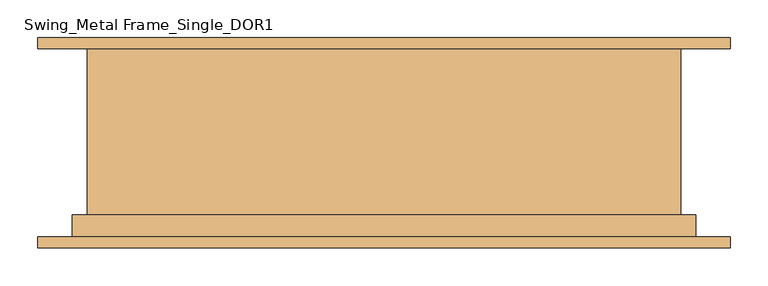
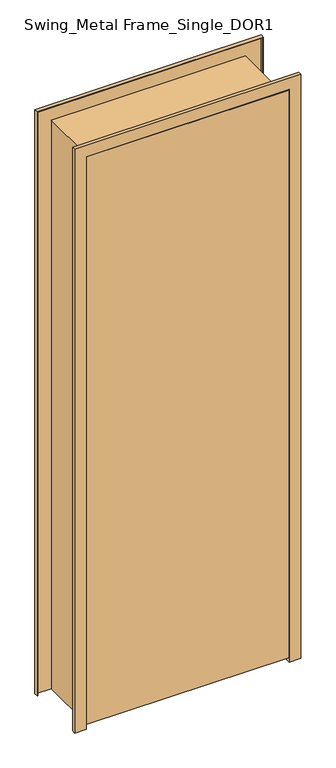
"""IFC4 building model written with IfcOpenShell, lengths in millimetres: door geometry, Swing_Metal Frame_Single_DOR1 : 2040h x 820 (2110x920 STUD)."""

from ifc_helpers import new_model, si_unit, frame, origin, place, context, project, spatial, polyline, outline, extrude, faceted_brep, source, transform, mapped, element, save


def swing_metal_frame_single_dor1_e173a355(model_context):
    return source(origin(), model_context, "Body", "SolidModel", [
        extrude(outline(polyline([(410.0, -140.0), (-410.0, -140.0), (-410.0, -100.0), (410.0, -100.0), (410.0, -140.0)])), frame((0.0, 0.0, 20.0), z_axis=(0.0, 0.0, 1.0), x_axis=(1.0, 0.0, 0.0)), (0.0, 0.0, 1.0), 2440.0),
        faceted_brep([(-460.0, 140.0, 0.0), (-392.0, 140.0, 0.0), (-392.0, -98.0, 0.0), (-412.0, -98.0, 0.0), (-412.0, -140.0, 0.0), (-460.0, -140.0, 0.0), (-460.0, -125.0, 0.0), (-458.0, -125.0, 0.0), (-458.0, -138.0, 0.0), (-414.0, -138.0, 0.0), (-414.0, -96.0, 0.0), (-394.0, -96.0, 0.0), (-394.0, 138.0, 0.0), (-458.0, 138.0, 0.0), (-458.0, 125.0, 0.0), (-460.0, 125.0, 0.0), (-460.0, 125.0, 2510.0), (-460.0, 140.0, 2510.0), (-458.0, 125.0, 2508.0), (458.0, 125.0, 2508.0), (458.0, 125.0, 0.0), (460.0, 125.0, 0.0), (460.0, 125.0, 2510.0), (-458.0, 138.0, 2508.0), (-394.0, 138.0, 2444.0), (394.0, 138.0, 2444.0), (394.0, 138.0, 0.0), (458.0, 138.0, 0.0), (458.0, 138.0, 2508.0), (-394.0, -96.0, 2444.0), (-414.0, -96.0, 2464.0), (414.0, -96.0, 2464.0), (414.0, -96.0, 0.0), (394.0, -96.0, 0.0), (394.0, -96.0, 2444.0), (-414.0, -138.0, 2464.0), (-458.0, -138.0, 2508.0), (458.0, -138.0, 2508.0), (458.0, -138.0, 0.0), (414.0, -138.0, 0.0), (414.0, -138.0, 2464.0), (-458.0, -125.0, 2508.0), (-460.0, -125.0, 2510.0), (460.0, -125.0, 2510.0), (460.0, -125.0, 0.0), (458.0, -125.0, 0.0), (458.0, -125.0, 2508.0), (-460.0, -140.0, 2510.0), (-412.0, -140.0, 2462.0), (412.0, -140.0, 2462.0), (412.0, -140.0, 0.0), (460.0, -140.0, 0.0), (460.0, -140.0, 2510.0), (-412.0, -98.0, 2462.0), (-392.0, -98.0, 2442.0), (392.0, -98.0, 2442.0), (392.0, -98.0, 0.0), (412.0, -98.0, 0.0), (412.0, -98.0, 2462.0), (-392.0, 140.0, 2442.0), (460.0, 140.0, 2510.0), (460.0, 140.0, 0.0), (392.0, 140.0, 0.0), (392.0, 140.0, 2442.0)], [[[0, 1, 2, 3, 4, 5, 6, 7, 8, 9, 10, 11, 12, 13, 14, 15]], [[15, 16, 17, 0]], [[14, 18, 19, 20, 21, 22, 16, 15]], [[13, 23, 18, 14]], [[12, 24, 25, 26, 27, 28, 23, 13]], [[11, 29, 24, 12]], [[10, 30, 31, 32, 33, 34, 29, 11]], [[9, 35, 30, 10]], [[8, 36, 37, 38, 39, 40, 35, 9]], [[7, 41, 36, 8]], [[6, 42, 43, 44, 45, 46, 41, 7]], [[5, 47, 42, 6]], [[4, 48, 49, 50, 51, 52, 47, 5]], [[3, 53, 48, 4]], [[2, 54, 55, 56, 57, 58, 53, 3]], [[1, 59, 54, 2]], [[0, 17, 60, 61, 62, 63, 59, 1]], [[22, 21, 61, 60]], [[61, 21, 20, 27, 26, 33, 32, 39, 38, 45, 44, 51, 50, 57, 56, 62]], [[28, 27, 20, 19]], [[34, 33, 26, 25]], [[40, 39, 32, 31]], [[46, 45, 38, 37]], [[52, 51, 44, 43]], [[58, 57, 50, 49]], [[63, 62, 56, 55]], [[16, 22, 60, 17]], [[23, 28, 19, 18]], [[29, 34, 25, 24]], [[35, 40, 31, 30]], [[41, 46, 37, 36]], [[47, 52, 43, 42]], [[53, 58, 49, 48]], [[59, 63, 55, 54]]]),
    ])


if __name__ == "__main__":
    model = new_model("IFC4")
    model_context = context("Model", 3, world=origin())
    ifc_project = project(units=[si_unit("LENGTHUNIT", "METRE", prefix="MILLI")], contexts=[model_context])
    site = spatial("IfcSite", under=ifc_project)
    building = spatial("IfcBuilding", under=site)
    placement = place(None, origin())
    swing_metal_frame_single_dor1_shape = swing_metal_frame_single_dor1_e173a355(model_context)
    element("IfcDoor", 1, ObjectType="Swing_Metal Frame_Single_DOR1 : 2040h x 820 (2110x920 STUD)", at=placement, inside=building, context=model_context, shape_type="MappedRepresentation", body=[
        mapped(swing_metal_frame_single_dor1_shape, transform((0.0, 0.0, 0.0), x_axis=(1.0, 0.0, 0.0), y_axis=(0.0, 1.0, 0.0), z_axis=(0.0, 0.0, 1.0))),
    ])
    save(model, "model.ifc")
